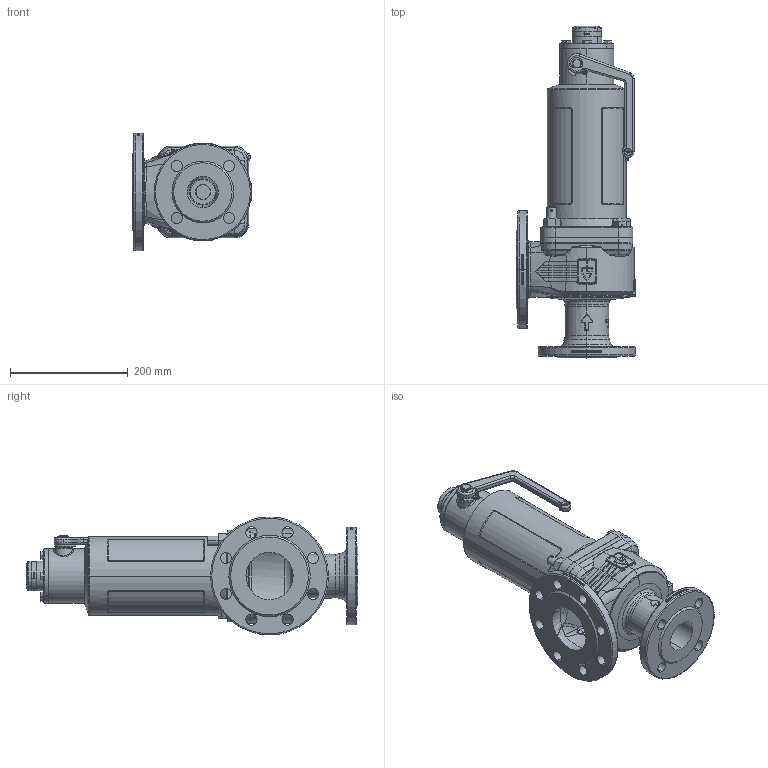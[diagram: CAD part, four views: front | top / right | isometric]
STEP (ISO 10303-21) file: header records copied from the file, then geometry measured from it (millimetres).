
FILE_DESCRIPTION (( 'STEP AP214' ), '1' );
FILE_NAME ('355tGFL_50_FLFL_5080.STEP', '2020-06-03T11:48:59', ( '' ), ( '' ), 'SwSTEP 2.0', 'SolidWorks 2018', '' );
FILE_SCHEMA (( 'AUTOMOTIVE_DESIGN' ));
Length unit declared in the file: millimetre
Products named in the file (1): 355tGFL_50_FLFL_5080
Bounding box: 203.1 x 563 x 200 mm (x, y, z)
Volume: 3352812.8 mm3; surface area: 791751.9 mm2
Topology: 22 solids, 22 shells, 2410 faces, 6421 edges, 4239 vertices
Faces by surface type: bspline 766, cylinder 627, plane 578, cone 262, torus 163, sphere 14
Entity records: 191415 total; most frequent: CARTESIAN_POINT 110164, ORIENTED_EDGE 12730, DIRECTION 9300, EDGE_CURVE 6365, VERTEX_POINT 4238, AXIS2_PLACEMENT_3D 3767, EDGE_LOOP 2739, UNCERTAINTY_MEASURE_WITH_UNIT 2434
